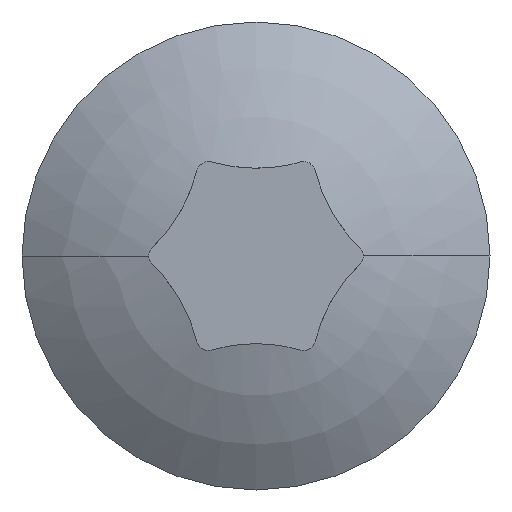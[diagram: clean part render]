
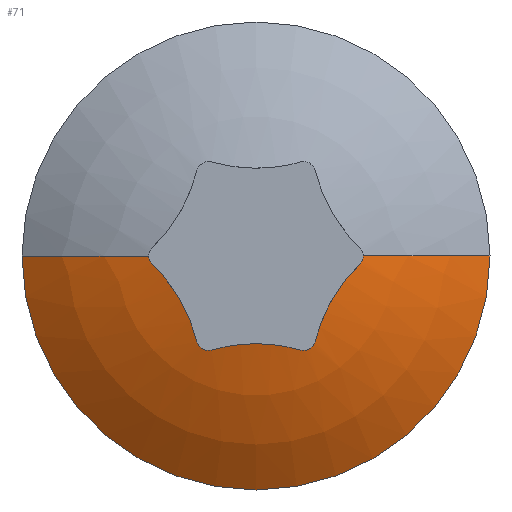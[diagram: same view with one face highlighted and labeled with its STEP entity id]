
A CAD part, left-side view. The second image highlights one B-rep face of the part: STEP entity #71.
In plain terms, the highlighted spherical face has radius 10 mm.
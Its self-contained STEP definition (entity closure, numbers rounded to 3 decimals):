
#8 = CARTESIAN_POINT ( 'NONE',  ( 0.362, 2.658, -0.216 ) ) ;
#23 = CARTESIAN_POINT ( 'NONE',  ( 0.386, -1.305, -2.422 ) ) ;
#36 = CARTESIAN_POINT ( 'NONE',  ( 10., 0., 0. ) ) ;
#54 = B_SPLINE_CURVE_WITH_KNOTS ( 'NONE', 3,
 ( #541, #824, #154, #23, #470, #147 ),
 .UNSPECIFIED., .F., .F.,
 ( 4, 2, 4 ),
 ( 0., 0.5, 1. ),
 .UNSPECIFIED. ) ;
#70 = CARTESIAN_POINT ( 'NONE',  ( 0.256, -1.755, -1.462 ) ) ;
#71 = ADVANCED_FACE ( 'NONE', ( #698 ), #357, .T. ) ;
#83 = CARTESIAN_POINT ( 'NONE',  ( 0.386, 1.305, -2.422 ) ) ;
#84 = CARTESIAN_POINT ( 'NONE',  ( 0.386, 2.75, -0.081 ) ) ;
#88 = CARTESIAN_POINT ( 'NONE',  ( 0.362, 1.517, -2.194 ) ) ;
#90 = ORIENTED_EDGE ( 'NONE', *, *, #314, .T. ) ;
#91 = CARTESIAN_POINT ( 'NONE',  ( 0.377, 1.497, -2.272 ) ) ;
#97 = DIRECTION ( 'NONE',  ( 0., 0., -1. ) ) ;
#99 = VERTEX_POINT ( 'NONE', #599 ) ;
#109 = CARTESIAN_POINT ( 'NONE',  ( 0.256, 0., -2.25 ) ) ;
#114 = EDGE_CURVE ( 'NONE', #749, #623, #506, .T. ) ;
#120 = ORIENTED_EDGE ( 'NONE', *, *, #248, .T. ) ;
#126 = ORIENTED_EDGE ( 'NONE', *, *, #195, .T. ) ;
#141 = ORIENTED_EDGE ( 'NONE', *, *, #158, .F. ) ;
#146 = B_SPLINE_CURVE_WITH_KNOTS ( 'NONE', 3,
 ( #723, #382, #394, #70, #468, #821 ),
 .UNSPECIFIED., .F., .F.,
 ( 4, 2, 4 ),
 ( 0., 0.5, 1. ),
 .UNSPECIFIED. ) ;
#147 = CARTESIAN_POINT ( 'NONE',  ( 0.362, -1.142, -2.41 ) ) ;
#149 = VERTEX_POINT ( 'NONE', #727 ) ;
#154 = CARTESIAN_POINT ( 'NONE',  ( 0.386, -1.445, -2.341 ) ) ;
#155 = CARTESIAN_POINT ( 'NONE',  ( 10., 0., 0. ) ) ;
#158 = EDGE_CURVE ( 'NONE', #502, #206, #170, .T. ) ;
#165 = DIRECTION ( 'NONE',  ( 0., 1., 0. ) ) ;
#166 = DIRECTION ( 'NONE',  ( -1., 0., 0. ) ) ;
#170 = CIRCLE ( 'NONE', #474, 10. ) ;
#182 = CARTESIAN_POINT ( 'NONE',  ( 0.362, 1.142, -2.41 ) ) ;
#184 = CARTESIAN_POINT ( 'NONE',  ( 0.362, -1.142, -2.41 ) ) ;
#187 = CARTESIAN_POINT ( 'NONE',  ( 0.256, 0., -2.25 ) ) ;
#189 = VERTEX_POINT ( 'NONE', #665 ) ;
#195 = EDGE_CURVE ( 'NONE', #580, #328, #667, .T. ) ;
#198 = ORIENTED_EDGE ( 'NONE', *, *, #554, .T. ) ;
#201 = CARTESIAN_POINT ( 'NONE',  ( 0.292, 2.381, -0.485 ) ) ;
#206 = VERTEX_POINT ( 'NONE', #731 ) ;
#217 = ORIENTED_EDGE ( 'NONE', *, *, #733, .T. ) ;
#222 = EDGE_CURVE ( 'NONE', #680, #526, #146, .T. ) ;
#248 = EDGE_CURVE ( 'NONE', #623, #99, #578, .T. ) ;
#254 = CARTESIAN_POINT ( 'NONE',  ( 0.362, -1.142, -2.41 ) ) ;
#255 = CARTESIAN_POINT ( 'NONE',  ( 0.257, 1.754, -1.463 ) ) ;
#259 = DIRECTION ( 'NONE',  ( 0., 0., 1. ) ) ;
#264 = AXIS2_PLACEMENT_3D ( 'NONE', #155, #97, #688 ) ;
#266 = CARTESIAN_POINT ( 'NONE',  ( 0.386, -2.75, 0. ) ) ;
#269 = AXIS2_PLACEMENT_3D ( 'NONE', #36, #166, #426 ) ;
#286 = CARTESIAN_POINT ( 'NONE',  ( 0.362, 1.517, -2.194 ) ) ;
#287 = CARTESIAN_POINT ( 'NONE',  ( 0.256, 0., -2.25 ) ) ;
#306 = CARTESIAN_POINT ( 'NONE',  ( 0.291, 0.769, -2.304 ) ) ;
#314 = EDGE_CURVE ( 'NONE', #99, #149, #327, .T. ) ;
#316 = CARTESIAN_POINT ( 'NONE',  ( 0.362, 1.517, -2.194 ) ) ;
#326 = CARTESIAN_POINT ( 'NONE',  ( 0.256, 2.143, -0.789 ) ) ;
#327 = CIRCLE ( 'NONE', #264, 10. ) ;
#328 = VERTEX_POINT ( 'NONE', #287 ) ;
#334 = CARTESIAN_POINT ( 'NONE',  ( 0.386, 1.445, -2.341 ) ) ;
#357 = SPHERICAL_SURFACE ( 'NONE', #269, 10. ) ;
#374 = ORIENTED_EDGE ( 'NONE', *, *, #388, .F. ) ;
#382 = CARTESIAN_POINT ( 'NONE',  ( 0.292, -2.381, -0.484 ) ) ;
#383 = ORIENTED_EDGE ( 'NONE', *, *, #222, .T. ) ;
#384 = CARTESIAN_POINT ( 'NONE',  ( 0.362, -2.658, -0.216 ) ) ;
#388 = EDGE_CURVE ( 'NONE', #206, #149, #484, .T. ) ;
#392 = ORIENTED_EDGE ( 'NONE', *, *, #833, .T. ) ;
#394 = CARTESIAN_POINT ( 'NONE',  ( 0.257, -2.144, -0.788 ) ) ;
#402 = CARTESIAN_POINT ( 'NONE',  ( 0.377, 1.219, -2.432 ) ) ;
#426 = DIRECTION ( 'NONE',  ( 0., 1., 0. ) ) ;
#458 = CARTESIAN_POINT ( 'NONE',  ( 0.291, -0.769, -2.304 ) ) ;
#461 = B_SPLINE_CURVE_WITH_KNOTS ( 'NONE', 3,
 ( #182, #402, #83, #334, #91, #286 ),
 .UNSPECIFIED., .F., .F.,
 ( 4, 2, 4 ),
 ( 0., 0.5, 1. ),
 .UNSPECIFIED. ) ;
#468 = CARTESIAN_POINT ( 'NONE',  ( 0.292, -1.61, -1.819 ) ) ;
#470 = CARTESIAN_POINT ( 'NONE',  ( 0.377, -1.219, -2.432 ) ) ;
#472 = B_SPLINE_CURVE_WITH_KNOTS ( 'NONE', 3,
 ( #266, #528, #805, #384 ),
 .UNSPECIFIED., .F., .F.,
 ( 4, 4 ),
 ( 0., 1. ),
 .UNSPECIFIED. ) ;
#473 = EDGE_LOOP ( 'NONE', ( #141, #198, #383, #217, #126, #392, #703, #555, #120, #90, #374 ) ) ;
#474 = AXIS2_PLACEMENT_3D ( 'NONE', #862, #259, #793 ) ;
#484 = CIRCLE ( 'NONE', #801, 6. ) ;
#500 = CARTESIAN_POINT ( 'NONE',  ( 0.256, 0.386, -2.25 ) ) ;
#502 = VERTEX_POINT ( 'NONE', #802 ) ;
#506 = B_SPLINE_CURVE_WITH_KNOTS ( 'NONE', 3,
 ( #316, #857, #255, #326, #201, #8 ),
 .UNSPECIFIED., .F., .F.,
 ( 4, 2, 4 ),
 ( 0., 0.5, 1. ),
 .UNSPECIFIED. ) ;
#520 = CARTESIAN_POINT ( 'NONE',  ( 0.256, -0.386, -2.25 ) ) ;
#526 = VERTEX_POINT ( 'NONE', #655 ) ;
#528 = CARTESIAN_POINT ( 'NONE',  ( 0.386, -2.75, -0.081 ) ) ;
#541 = CARTESIAN_POINT ( 'NONE',  ( 0.362, -1.517, -2.194 ) ) ;
#554 = EDGE_CURVE ( 'NONE', #502, #680, #472, .T. ) ;
#555 = ORIENTED_EDGE ( 'NONE', *, *, #114, .T. ) ;
#577 = CARTESIAN_POINT ( 'NONE',  ( 0.362, 2.658, -0.216 ) ) ;
#578 = B_SPLINE_CURVE_WITH_KNOTS ( 'NONE', 3,
 ( #742, #679, #84, #817 ),
 .UNSPECIFIED., .F., .F.,
 ( 4, 4 ),
 ( 0., 1. ),
 .UNSPECIFIED. ) ;
#580 = VERTEX_POINT ( 'NONE', #254 ) ;
#599 = CARTESIAN_POINT ( 'NONE',  ( 0.386, 2.75, 0. ) ) ;
#614 = CARTESIAN_POINT ( 'NONE',  ( 0.362, -2.658, -0.216 ) ) ;
#623 = VERTEX_POINT ( 'NONE', #577 ) ;
#647 = EDGE_CURVE ( 'NONE', #189, #749, #461, .T. ) ;
#655 = CARTESIAN_POINT ( 'NONE',  ( 0.362, -1.517, -2.194 ) ) ;
#665 = CARTESIAN_POINT ( 'NONE',  ( 0.362, 1.142, -2.41 ) ) ;
#667 = B_SPLINE_CURVE_WITH_KNOTS ( 'NONE', 3,
 ( #184, #458, #520, #187 ),
 .UNSPECIFIED., .F., .F.,
 ( 4, 4 ),
 ( 0., 1. ),
 .UNSPECIFIED. ) ;
#679 = CARTESIAN_POINT ( 'NONE',  ( 0.377, 2.716, -0.161 ) ) ;
#680 = VERTEX_POINT ( 'NONE', #614 ) ;
#688 = DIRECTION ( 'NONE',  ( -1., 0., 0. ) ) ;
#697 = B_SPLINE_CURVE_WITH_KNOTS ( 'NONE', 3,
 ( #109, #500, #306, #828 ),
 .UNSPECIFIED., .F., .F.,
 ( 4, 4 ),
 ( 0., 1. ),
 .UNSPECIFIED. ) ;
#698 = FACE_OUTER_BOUND ( 'NONE', #473, .T. ) ;
#703 = ORIENTED_EDGE ( 'NONE', *, *, #647, .T. ) ;
#723 = CARTESIAN_POINT ( 'NONE',  ( 0.362, -2.658, -0.216 ) ) ;
#727 = CARTESIAN_POINT ( 'NONE',  ( 2., 6., 0. ) ) ;
#731 = CARTESIAN_POINT ( 'NONE',  ( 2., -6., 0. ) ) ;
#733 = EDGE_CURVE ( 'NONE', #526, #580, #54, .T. ) ;
#742 = CARTESIAN_POINT ( 'NONE',  ( 0.362, 2.658, -0.216 ) ) ;
#749 = VERTEX_POINT ( 'NONE', #88 ) ;
#793 = DIRECTION ( 'NONE',  ( 0., -1., 0. ) ) ;
#801 = AXIS2_PLACEMENT_3D ( 'NONE', #839, #848, #165 ) ;
#802 = CARTESIAN_POINT ( 'NONE',  ( 0.386, -2.75, 0. ) ) ;
#805 = CARTESIAN_POINT ( 'NONE',  ( 0.377, -2.716, -0.161 ) ) ;
#817 = CARTESIAN_POINT ( 'NONE',  ( 0.386, 2.75, 0. ) ) ;
#821 = CARTESIAN_POINT ( 'NONE',  ( 0.362, -1.517, -2.194 ) ) ;
#824 = CARTESIAN_POINT ( 'NONE',  ( 0.377, -1.497, -2.272 ) ) ;
#828 = CARTESIAN_POINT ( 'NONE',  ( 0.362, 1.142, -2.41 ) ) ;
#833 = EDGE_CURVE ( 'NONE', #328, #189, #697, .T. ) ;
#839 = CARTESIAN_POINT ( 'NONE',  ( 2., 0., 0. ) ) ;
#848 = DIRECTION ( 'NONE',  ( 1., 0., 0. ) ) ;
#857 = CARTESIAN_POINT ( 'NONE',  ( 0.292, 1.61, -1.82 ) ) ;
#862 = CARTESIAN_POINT ( 'NONE',  ( 10., 0., 0. ) ) ;
